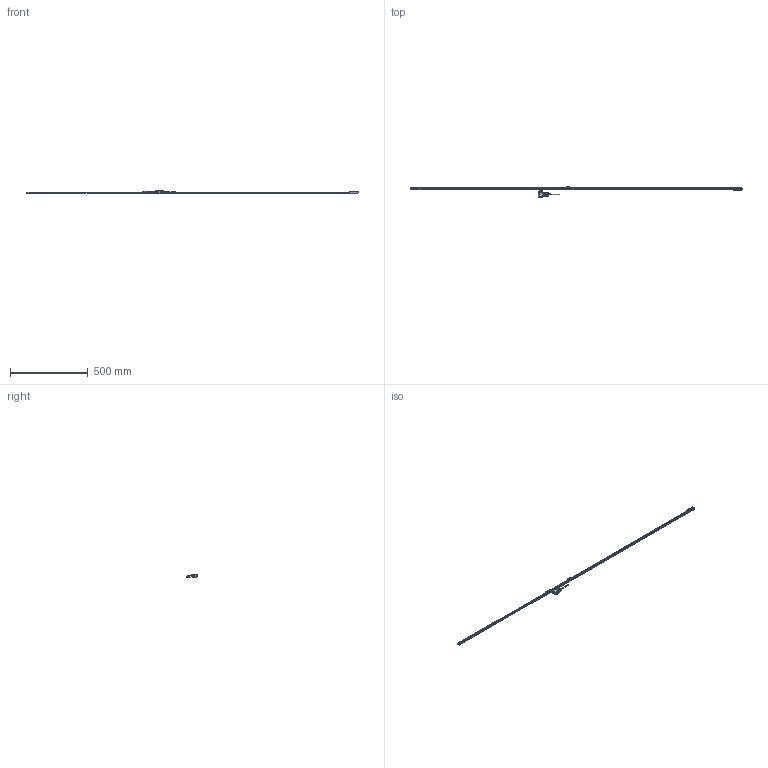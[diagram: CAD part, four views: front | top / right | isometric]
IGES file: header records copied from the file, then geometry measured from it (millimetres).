
Start section: Elysium IGES Interface
Global section: file name: 79H\\Utsu119s\kiyo_cad\data\3D\ST46EZA\HP掲載用_201803\ST46EZA-D\ST46EZA-2000D.igs; native system: Creo Elements/Direct Modeling 18.1B  29-Sep-2012; preprocessor: Creo Element/Direct IGES_3D V2.2; author: Unknown; organization: Unknown; date: 20180322.174931; units: millimetre
Bounding box: 2142 x 74.86 x 18.68 mm (x, y, z)
Volume: 180870.9 mm3; surface area: 125864.3 mm2
Topology: 3 solids, 5 shells, 2678 faces, 7167 edges, 4675 vertices
Faces by surface type: bspline 2678
